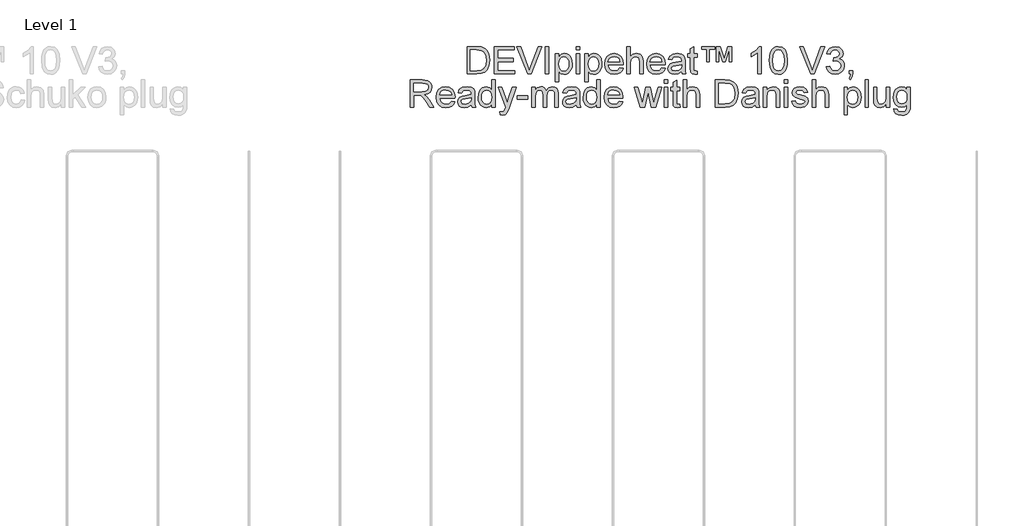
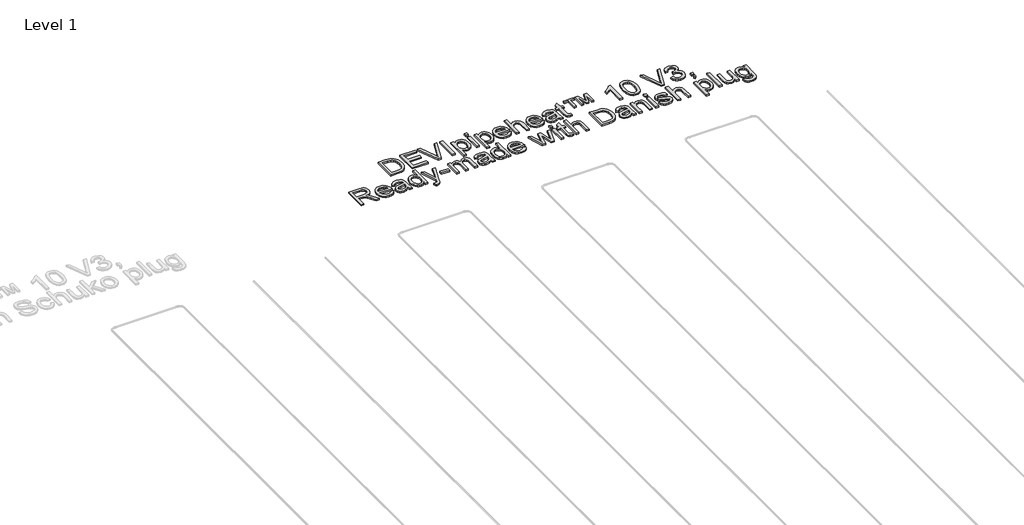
# One storey, part 26 of 26: 1 proxy.
"""IFC4 building model written with IfcOpenShell, lengths in millimetres."""

from ifc_helpers import new_model, si_unit, origin, origin_with_axes, place, context, project, spatial, polyline, outline, extrude, element, save

model = new_model("IFC4")

# Units and contexts
model_context = context("Model", 3, world=origin())
ifc_project = project(units=[si_unit("LENGTHUNIT", "METRE", prefix="MILLI")], contexts=[model_context])

# Site, building, storey
site = spatial("IfcSite", under=ifc_project)
building = spatial("IfcBuilding", under=site)
storey = spatial("IfcBuildingStorey", under=building, Name="Level 1", Elevation=0.0)

# Proxy
placement = place(None, origin())
element("IfcBuildingElementProxy", 1, Name="150mm", ObjectType="150mm", at=placement, inside=storey, context=model_context, shape_type="SweptSolid", body=[
    extrude(outline(polyline([(13110.8051646, 2484.9298), (13110.8051646, 2635.6142653), (13162.7868906, 2635.6142653), (13189.6790644, 2633.4437615), (13211.8255605, 2622.664819), (13222.245818, 2611.1869008), (13229.6678373, 2596.9130794), (13234.1100124, 2580.1192663), (13235.5907374, 2561.081373), (13231.5808237, 2530.6759261), (13221.2801278, 2508.7317651), (13207.5213412, 2495.064949), (13189.5135175, 2487.504974), (13165.2884881, 2484.9298), (13110.8051646, 2484.9298)]), holes=[polyline([(13129.6407228, 2503.7653582), (13162.9708316, 2503.7653582), (13187.214255, 2506.487685), (13201.1937709, 2514.1764187), (13212.653295, 2532.8832181), (13216.7551793, 2561.3756786), (13214.7456239, 2581.903494), (13208.7169577, 2597.0602322), (13199.8096149, 2607.4712926), (13189.1640296, 2613.7620748), (13162.4557968, 2616.7787071), (13129.6407228, 2616.7787071), (13129.6407228, 2503.7653582)])]), origin_with_axes(), (0.0, 0.0, 1.0), 10.0),
    extrude(outline(polyline([(13261.4896299, 2484.9298), (13261.4896299, 2635.6142653), (13369.7940893, 2635.6142653), (13369.7940893, 2616.7787071), (13280.325188, 2616.7787071), (13280.325188, 2572.0442565), (13365.0851997, 2572.0442565), (13365.0851997, 2553.2086983), (13280.325188, 2553.2086983), (13280.325188, 2503.7653582), (13372.148534, 2503.7653582), (13372.148534, 2484.9298), (13261.4896299, 2484.9298)])), origin_with_axes(), (0.0, 0.0, 1.0), 10.0),
    extrude(outline(polyline([(13444.9155927, 2484.9298), (13384.9508275, 2635.6142653), (13405.1107608, 2635.6142653), (13445.2466865, 2527.0522885), (13453.3768786, 2502.5881358), (13461.3967061, 2527.0522885), (13501.6429963, 2635.6142653), (13521.8029297, 2635.6142653), (13464.3765502, 2484.9298), (13444.9155927, 2484.9298)])), origin_with_axes(), (0.0, 0.0, 1.0), 10.0),
    extrude(outline(polyline([(13541.6685574, 2484.9298), (13541.6685574, 2635.6142653), (13560.5041156, 2635.6142653), (13560.5041156, 2484.9298), (13541.6685574, 2484.9298)])), origin_with_axes(), (0.0, 0.0, 1.0), 10.0),
    extrude(outline(polyline([(13595.8207871, 2442.5497942), (13595.8207871, 2595.5887042), (13614.6563452, 2595.5887042), (13614.6563452, 2577.121028), (13627.6793679, 2592.7376187), (13645.2641272, 2597.943149), (13658.0020413, 2596.1221331), (13669.1396687, 2590.6590855), (13678.2079599, 2581.8850999), (13684.7378653, 2570.1312701), (13689.9985779, 2541.1053807), (13688.5132543, 2524.9967478), (13684.0572836, 2510.5895692), (13676.7732201, 2498.6150103), (13666.8036181, 2489.8042365), (13655.1923426, 2484.3825756), (13642.9832589, 2482.5753553), (13626.594116, 2487.4130035), (13614.6563452, 2499.6450798), (13614.6563452, 2442.5497942), (13595.8207871, 2442.5497942)]), holes=[polyline([(13614.6563452, 2539.3763353), (13616.6934918, 2522.4905517), (13622.8049314, 2510.6815397), (13631.8226388, 2503.72857), (13642.5785887, 2501.4109134), (13653.5092825, 2503.8113434), (13662.7569161, 2511.0126335), (13669.0614938, 2523.2539069), (13671.1630197, 2540.7742869), (13669.1120776, 2557.5681), (13662.9592512, 2569.5426589), (13653.9553394, 2576.7163578), (13643.3511409, 2579.1075908), (13632.7055556, 2576.5646065), (13623.3567544, 2568.9356536), (13616.8314475, 2556.4598555), (13614.6563452, 2539.3763353)])]), origin_with_axes(), (0.0, 0.0, 1.0), 10.0),
    extrude(outline(polyline([(13711.1885808, 2616.7787071), (13711.1885808, 2635.6142653), (13730.0241389, 2635.6142653), (13730.0241389, 2616.7787071), (13711.1885808, 2616.7787071)])), origin_with_axes(), (0.0, 0.0, 1.0), 10.0),
    extrude(outline(polyline([(13711.1885808, 2484.9298), (13711.1885808, 2595.5887042), (13730.0241389, 2595.5887042), (13730.0241389, 2484.9298), (13711.1885808, 2484.9298)])), origin_with_axes(), (0.0, 0.0, 1.0), 10.0),
    extrude(outline(polyline([(13758.2774762, 2442.5497942), (13758.2774762, 2595.5887042), (13777.1130343, 2595.5887042), (13777.1130343, 2577.121028), (13790.1360569, 2592.7376187), (13807.7208163, 2597.943149), (13820.4587304, 2596.1221331), (13831.5963578, 2590.6590855), (13840.664649, 2581.8850999), (13847.1945544, 2570.1312701), (13852.4552669, 2541.1053807), (13850.9699434, 2524.9967478), (13846.5139727, 2510.5895692), (13839.2299092, 2498.6150103), (13829.2603071, 2489.8042365), (13817.6490317, 2484.3825756), (13805.4399479, 2482.5753553), (13789.0508051, 2487.4130035), (13777.1130343, 2499.6450798), (13777.1130343, 2442.5497942), (13758.2774762, 2442.5497942)]), holes=[polyline([(13777.1130343, 2539.3763353), (13779.1501809, 2522.4905517), (13785.2616205, 2510.6815397), (13794.2793279, 2503.72857), (13805.0352777, 2501.4109134), (13815.9659715, 2503.8113434), (13825.2136052, 2511.0126335), (13831.5181829, 2523.2539069), (13833.6197088, 2540.7742869), (13831.5687666, 2557.5681), (13825.4159403, 2569.5426589), (13816.4120284, 2576.7163578), (13805.8078299, 2579.1075908), (13795.1622447, 2576.5646065), (13785.8134435, 2568.9356536), (13779.2881366, 2556.4598555), (13777.1130343, 2539.3763353)])]), origin_with_axes(), (0.0, 0.0, 1.0), 10.0),
    extrude(outline(polyline([(13951.121218, 2517.8920268), (13969.5888942, 2515.537582), (13962.9348286, 2501.6224456), (13952.3168345, 2491.2205822), (13937.9740352, 2484.736662), (13920.145554, 2482.5753553), (13898.0450432, 2486.304759), (13881.0396979, 2497.4929702), (13870.1963761, 2515.4134219), (13866.5819355, 2539.3395471), (13870.2331643, 2564.0704143), (13881.1868507, 2582.5656816), (13897.9622697, 2594.0987821), (13919.0786962, 2597.943149), (13939.5375337, 2594.1079792), (13955.8852899, 2582.6024698), (13966.6044515, 2564.1439907), (13970.1775054, 2539.4499117), (13970.0671408, 2534.3731402), (13885.4174937, 2534.3731402), (13888.6778479, 2520.2740627), (13896.2516184, 2509.9089875), (13907.1823122, 2503.5354319), (13920.513436, 2501.4109134), (13938.9811122, 2505.3472508), (13951.121218, 2517.8920268)]), holes=[polyline([(13885.4174937, 2553.2086983), (13951.3419472, 2553.2086983), (13948.7943644, 2563.1599063), (13943.8003663, 2570.2784229), (13932.8190888, 2576.9002988), (13919.0051199, 2579.1075908), (13906.3085925, 2577.3463558), (13895.8101601, 2572.0626506), (13888.512301, 2563.8266924), (13885.4174937, 2553.2086983)])]), origin_with_axes(), (0.0, 0.0, 1.0), 10.0),
    extrude(outline(polyline([(13989.0130635, 2484.9298), (13989.0130635, 2635.6142653), (14007.8486217, 2635.6142653), (14007.8486217, 2580.2112368), (14022.5363103, 2593.5101709), (14040.6269075, 2597.943149), (14061.7801222, 2593.1055007), (14074.6192038, 2579.7329902), (14078.4819648, 2554.9745319), (14078.4819648, 2484.9298), (14059.6464066, 2484.9298), (14059.6464066, 2553.0247573), (14058.1472875, 2564.8153753), (14053.6499301, 2572.8903851), (14046.4026548, 2577.5532894), (14036.6537819, 2579.1075908), (14021.2211322, 2574.9137361), (14010.9204363, 2563.5461824), (14007.8486217, 2543.7173429), (14007.8486217, 2484.9298), (13989.0130635, 2484.9298)])), origin_with_axes(), (0.0, 0.0, 1.0), 10.0),
    extrude(outline(polyline([(14181.8568054, 2517.8920268), (14200.3244816, 2515.537582), (14193.670416, 2501.6224456), (14183.0524219, 2491.2205822), (14168.7096226, 2484.736662), (14150.8811414, 2482.5753553), (14128.7806306, 2486.304759), (14111.7752853, 2497.4929702), (14100.9319635, 2515.4134219), (14097.3175229, 2539.3395471), (14100.9687517, 2564.0704143), (14111.9224381, 2582.5656816), (14128.6978571, 2594.0987821), (14149.8142836, 2597.943149), (14170.2731211, 2594.1079792), (14186.6208772, 2582.6024698), (14197.3400389, 2564.1439907), (14200.9130928, 2539.4499117), (14200.8027282, 2534.3731402), (14116.1530811, 2534.3731402), (14119.4134352, 2520.2740627), (14126.9872058, 2509.9089875), (14137.9178996, 2503.5354319), (14151.2490234, 2501.4109134), (14169.7166996, 2505.3472508), (14181.8568054, 2517.8920268)]), holes=[polyline([(14116.1530811, 2553.2086983), (14182.0775346, 2553.2086983), (14179.5299518, 2563.1599063), (14174.5359537, 2570.2784229), (14163.5546761, 2576.9002988), (14149.7407072, 2579.1075908), (14137.0441799, 2577.3463558), (14126.5457474, 2572.0626506), (14119.2478884, 2563.8266924), (14116.1530811, 2553.2086983)])]), origin_with_axes(), (0.0, 0.0, 1.0), 10.0),
    extrude(outline(polyline([(14290.381994, 2499.0564687), (14272.1166529, 2486.2909634), (14251.9383255, 2482.5753553), (14236.1975746, 2484.8102384), (14224.5862991, 2491.5148878), (14217.4263958, 2501.696022), (14215.0397614, 2514.3603597), (14218.6450049, 2529.2595805), (14228.1179663, 2540.0753111), (14241.3065358, 2546.2557286), (14257.6037082, 2549.08842), (14290.2716294, 2555.5631431), (14290.381994, 2559.7569979), (14289.0852099, 2568.1631015), (14285.1948578, 2573.6629373), (14276.4944487, 2577.7464274), (14264.3727369, 2579.1075908), (14245.3164496, 2575.4839532), (14236.2297643, 2562.6264774), (14217.3942061, 2564.9809222), (14225.5427923, 2583.375022), (14241.9503293, 2594.1539644), (14266.8007581, 2597.943149), (14289.6278359, 2594.5954228), (14302.5220998, 2586.1893192), (14308.2978471, 2573.4054199), (14309.2175521, 2556.9243065), (14309.2175521, 2533.4902234), (14310.1740453, 2500.7671199), (14313.9264417, 2484.9298), (14295.0908835, 2484.9298), (14290.381994, 2499.0564687)]), holes=[polyline([(14290.381994, 2536.727585), (14259.9949412, 2530.9518376), (14243.7897393, 2527.8984171), (14236.4504935, 2522.9320101), (14233.8753195, 2515.6847348), (14239.4855199, 2505.4944036), (14255.9482392, 2501.4109134), (14275.0045266, 2505.9174679), (14287.2917852, 2516.825169), (14290.2716294, 2531.393296), (14290.381994, 2536.727585)])]), origin_with_axes(), (0.0, 0.0, 1.0), 10.0),
    extrude(outline(polyline([(14375.1420057, 2500.6383612), (14377.4964504, 2484.377977), (14363.40657, 2482.5753553), (14347.6244324, 2485.7023522), (14339.7517577, 2493.9061207), (14337.4708894, 2515.2800646), (14337.4708894, 2576.753146), (14323.3442207, 2576.753146), (14323.3442207, 2595.5887042), (14337.4708894, 2595.5887042), (14337.4708894, 2622.480878), (14356.3064475, 2633.5541261), (14356.3064475, 2595.5887042), (14375.1420057, 2595.5887042), (14375.1420057, 2576.753146), (14356.3064475, 2576.753146), (14356.3064475, 2515.8318876), (14357.2997289, 2506.119803), (14360.5186964, 2502.6801063), (14366.9382372, 2501.4109134), (14375.1420057, 2500.6383612)])), origin_with_axes(), (0.0, 0.0, 1.0), 10.0),
    extrude(outline(polyline([(14429.2942354, 2550.8542536), (14429.2942354, 2621.4875967), (14401.0408981, 2621.4875967), (14401.0408981, 2635.6142653), (14471.6742412, 2635.6142653), (14471.6742412, 2621.4875967), (14443.420904, 2621.4875967), (14443.420904, 2550.8542536), (14429.2942354, 2550.8542536)])), origin_with_axes(), (0.0, 0.0, 1.0), 10.0),
    extrude(outline(polyline([(14481.0920203, 2550.8542536), (14481.0920203, 2635.6142653), (14501.9877176, 2635.6142653), (14523.5456025, 2567.5560962), (14544.84597, 2635.6142653), (14565.852032, 2635.6142653), (14565.852032, 2550.8542536), (14551.7253634, 2550.8542536), (14551.7253634, 2620.4575271), (14530.5353604, 2550.8542536), (14516.4086918, 2550.8542536), (14495.2186889, 2621.4875967), (14495.2186889, 2550.8542536), (14481.0920203, 2550.8542536)])), origin_with_axes(), (0.0, 0.0, 1.0), 10.0),
    extrude(outline(polyline([(14728.308721, 2484.9298), (14709.4731629, 2484.9298), (14709.4731629, 2602.3577329), (14691.6308861, 2589.64741), (14671.8020466, 2580.1376604), (14671.8020466, 2597.943149), (14699.4115903, 2615.5646965), (14716.1686152, 2635.6142653), (14728.308721, 2635.6142653), (14728.308721, 2484.9298)])), origin_with_axes(), (0.0, 0.0, 1.0), 10.0),
    extrude(outline(polyline([(14773.0431717, 2559.0580221), (14774.4273277, 2583.1772854), (14778.5797957, 2602.4129152), (14785.459189, 2617.0592171), (14795.0241209, 2627.4104968), (14807.3435692, 2633.5633231), (14822.4865118, 2635.6142653), (14844.4858551, 2630.7582229), (14859.6793815, 2616.760313), (14868.5085494, 2594.4666641), (14871.929852, 2559.0580221), (14870.5594915, 2535.0767145), (14866.4484102, 2515.8870699), (14859.6104036, 2501.2269724), (14850.0592673, 2490.8343061), (14837.7122279, 2484.640093), (14822.4865118, 2482.5753553), (14802.9151897, 2486.1622047), (14788.0527571, 2496.9227531), (14776.795568, 2522.4077783), (14773.0431717, 2559.0580221)]), holes=[polyline([(14791.8787298, 2559.0948103), (14794.0860218, 2529.4665141), (14800.7078977, 2512.3186146), (14810.5671352, 2504.1378387), (14822.4865118, 2501.4109134), (14834.4058884, 2504.1470358), (14844.2651259, 2512.3554028), (14850.8870018, 2529.5124993), (14853.0942938, 2559.0948103), (14850.9605782, 2588.0563203), (14844.5594315, 2605.3375771), (14834.7185881, 2613.9184246), (14822.2657826, 2616.7787071), (14810.4751647, 2614.2587154), (14801.0022033, 2606.6987404), (14794.1595982, 2588.3414289), (14791.8787298, 2559.0948103)])]), origin_with_axes(), (0.0, 0.0, 1.0), 10.0),
    extrude(outline(polyline([(14998.8491403, 2484.9298), (14938.8843751, 2635.6142653), (14959.0443084, 2635.6142653), (14999.1802341, 2527.0522885), (15007.3104262, 2502.5881358), (15015.3302537, 2527.0522885), (15055.5765439, 2635.6142653), (15075.7364773, 2635.6142653), (15018.3100978, 2484.9298), (14998.8491403, 2484.9298)])), origin_with_axes(), (0.0, 0.0, 1.0), 10.0),
    extrude(outline(polyline([(15086.1843259, 2524.9553611), (15105.0198841, 2527.3098059), (15109.2367315, 2515.4732027), (15115.4125505, 2507.4809663), (15123.8508437, 2502.9284267), (15134.8551139, 2501.4109134), (15147.7677719, 2503.4986437), (15157.737374, 2509.7618347), (15164.1109296, 2519.1060374), (15166.2354481, 2530.4368028), (15164.1293237, 2541.1927527), (15157.8109504, 2549.9161545), (15148.2460185, 2555.6965003), (15136.4002183, 2557.6232823), (15123.1932547, 2555.5631431), (15125.290182, 2574.3987013), (15128.3068144, 2574.1779721), (15149.6807583, 2579.5858374), (15156.7992749, 2586.4468366), (15159.1721138, 2596.2141036), (15157.4522655, 2604.3488942), (15152.2927205, 2610.9477775), (15144.4200458, 2615.3209747), (15134.5608083, 2616.7787071), (15124.6831767, 2615.3071791), (15116.6081669, 2610.8925952), (15110.712858, 2603.5349553), (15107.3743289, 2593.2342594), (15088.5387707, 2595.5887042), (15094.0845918, 2612.5020789), (15103.9530263, 2625.1296284), (15117.4542955, 2632.9931061), (15133.8986207, 2635.6142653), (15156.6153339, 2630.4455232), (15172.5078361, 2616.3188546), (15178.0076719, 2597.3177496), (15172.7837476, 2579.9537194), (15157.3327038, 2567.4825198), (15169.1233218, 2562.7184479), (15177.8605191, 2554.6066499), (15183.2683845, 2543.5885842), (15185.0710063, 2530.105709), (15181.4657627, 2511.7483975), (15170.650032, 2496.4077183), (15154.3252685, 2486.033446), (15134.1929263, 2482.5753553), (15115.9827676, 2485.5276083), (15101.1571232, 2494.3843673), (15090.8472302, 2507.9316218), (15086.1843259, 2524.9553611)])), origin_with_axes(), (0.0, 0.0, 1.0), 10.0),
    extrude(outline(polyline([(15210.9698987, 2484.9298), (15210.9698987, 2503.7653582), (15229.8054569, 2503.7653582), (15229.8054569, 2484.9298), (15226.4209425, 2465.6711776), (15215.6787883, 2454.322018), (15210.9698987, 2461.3853524), (15217.8860802, 2469.5155444), (15220.3508896, 2484.9298), (15210.9698987, 2484.9298)])), origin_with_axes(), (0.0, 0.0, 1.0), 10.0),
    extrude(outline(polyline([(12800.0184551, 2301.9675733), (12800.0184551, 2452.6520385), (12864.9496273, 2452.6520385), (12895.0975568, 2448.5869425), (12904.3773801, 2442.9583479), (12911.5786702, 2434.2027564), (12916.2001877, 2423.3456391), (12917.7406936, 2411.4124668), (12915.1885122, 2396.5684283), (12907.5319682, 2384.2627756), (12894.5411353, 2375.2404697), (12875.9860871, 2370.2464716), (12886.6914532, 2362.1898559), (12901.958556, 2342.8024747), (12927.0848963, 2301.9675733), (12905.1959175, 2301.9675733), (12885.5878072, 2333.2007547), (12871.4243504, 2353.8757228), (12861.4731424, 2363.6429898), (12852.5152158, 2367.2298392), (12841.5891206, 2367.8920268), (12818.8540133, 2367.8920268), (12818.8540133, 2301.9675733), (12800.0184551, 2301.9675733)]), holes=[polyline([(12818.8540133, 2386.727585), (12861.0132899, 2386.727585), (12882.5159925, 2389.3947294), (12894.7296748, 2397.9295917), (12898.9051354, 2410.713491), (12896.9139741, 2419.9013439), (12890.9404902, 2427.304969), (12880.662787, 2432.1886025), (12865.7589677, 2433.8164803), (12818.8540133, 2433.8164803), (12818.8540133, 2386.727585)])]), origin_with_axes(), (0.0, 0.0, 1.0), 10.0),
    extrude(outline(polyline([(13025.8244238, 2334.9298), (13044.2920999, 2332.5753553), (13037.6380343, 2318.6602188), (13027.0200402, 2308.2583554), (13012.677241, 2301.7744352), (12994.8487598, 2299.6131285), (12972.7482489, 2303.3425322), (12955.7429037, 2314.5307434), (12944.8995819, 2332.4511951), (12941.2851413, 2356.3773204), (12944.9363701, 2381.1081875), (12955.8900565, 2399.6034548), (12972.6654755, 2411.1365553), (12993.781902, 2414.9809222), (13014.2407394, 2411.1457524), (13030.5884956, 2399.640243), (13041.3076572, 2381.1817639), (13044.8807111, 2356.487685), (13044.7703465, 2351.4109134), (12960.1206994, 2351.4109134), (12963.3810536, 2337.311836), (12970.9548242, 2326.9467607), (12981.885518, 2320.5732052), (12995.2166418, 2318.4486867), (13013.6843179, 2322.385024), (13025.8244238, 2334.9298)]), holes=[polyline([(12960.1206994, 2370.2464716), (13026.045153, 2370.2464716), (13023.4975701, 2380.1976795), (13018.5035721, 2387.3161962), (13007.5222945, 2393.9380721), (12993.7083256, 2396.145364), (12981.0117982, 2394.384129), (12970.5133658, 2389.1004238), (12963.2155067, 2380.8644657), (12960.1206994, 2370.2464716)])]), origin_with_axes(), (0.0, 0.0, 1.0), 10.0),
    extrude(outline(polyline([(13134.3496123, 2316.0942419), (13116.0842713, 2303.3287367), (13095.9059438, 2299.6131285), (13080.165193, 2301.8480116), (13068.5539175, 2308.552661), (13061.3940142, 2318.7337952), (13059.0073797, 2331.3981329), (13062.6126233, 2346.2973537), (13072.0855847, 2357.1130844), (13085.2741542, 2363.2935019), (13101.5713266, 2366.1261932), (13134.2392477, 2372.6009163), (13134.3496123, 2376.7947711), (13133.0528283, 2385.2008747), (13129.1624762, 2390.7007105), (13120.462067, 2394.7842007), (13108.3403553, 2396.145364), (13089.2840679, 2392.5217264), (13080.1973826, 2379.6642507), (13061.3618245, 2382.0186954), (13069.5104107, 2400.4127952), (13085.9179477, 2411.1917376), (13110.7683764, 2414.9809222), (13133.5954542, 2411.633196), (13146.4897182, 2403.2270924), (13152.2654655, 2390.4431931), (13153.1851705, 2373.9620797), (13153.1851705, 2350.5279966), (13154.1416637, 2317.8048932), (13157.89406, 2301.9675733), (13139.0585019, 2301.9675733), (13134.3496123, 2316.0942419)]), holes=[polyline([(13134.3496123, 2353.7653582), (13103.9625595, 2347.9896109), (13087.7573576, 2344.9361903), (13080.4181118, 2339.9697834), (13077.8429379, 2332.7225081), (13083.4531383, 2322.5321768), (13099.9158576, 2318.4486867), (13118.9721449, 2322.9552411), (13131.2594036, 2333.8629423), (13134.2392477, 2348.4310693), (13134.3496123, 2353.7653582)])]), origin_with_axes(), (0.0, 0.0, 1.0), 10.0),
    extrude(outline(polyline([(13247.3629613, 2301.9675733), (13247.3629613, 2319.7362736), (13234.9009587, 2304.6439148), (13217.6748842, 2299.6131285), (13205.4979902, 2301.4341444), (13194.3511658, 2306.897192), (13184.9149926, 2315.6205938), (13177.8700524, 2327.2226722), (13173.4830596, 2341.2343777), (13172.0207286, 2357.1866608), (13177.4101999, 2387.1690434), (13184.1424404, 2399.0608289), (13193.5602195, 2407.8072233), (13204.9507657, 2413.1874975), (13217.6013078, 2414.9809222), (13234.965338, 2409.8489684), (13247.3629613, 2396.513246), (13247.3629613, 2452.6520385), (13266.1985194, 2452.6520385), (13266.1985194, 2301.9675733), (13247.3629613, 2301.9675733)]), holes=[polyline([(13190.8562868, 2357.2602371), (13192.9808053, 2340.2227022), (13199.3543609, 2328.105589), (13208.6157901, 2320.8629123), (13219.4039296, 2318.4486867), (13230.1874706, 2320.7525477), (13239.2143751, 2327.6641306), (13245.3258147, 2339.3121943), (13247.3629613, 2355.8254974), (13245.2890265, 2373.8793063), (13239.0672223, 2386.3964912), (13229.8103916, 2393.7081458), (13218.6313774, 2396.145364), (13207.7328733, 2393.8047148), (13198.8025379, 2386.7827673), (13192.8428496, 2374.7208363), (13190.8562868, 2357.2602371)])]), origin_with_axes(), (0.0, 0.0, 1.0), 10.0),
    extrude(outline(polyline([(13294.4518566, 2259.5875674), (13292.0974119, 2277.7241498), (13301.6623437, 2276.0686808), (13310.6018762, 2278.1472141), (13316.083318, 2283.9413555), (13321.2336659, 2297.8105067), (13322.7051939, 2302.3722435), (13282.6796328, 2412.6264774), (13302.5452605, 2412.6264774), (13323.7720517, 2351.1901842), (13331.1664798, 2326.615667), (13338.5609079, 2348.3207047), (13360.3763102, 2412.6264774), (13380.0947851, 2412.6264774), (13341.5775402, 2299.3188229), (13331.57115, 2274.7443056), (13320.6450547, 2261.4637656), (13305.9665631, 2257.2331227), (13294.4518566, 2259.5875674)])), origin_with_axes(), (0.0, 0.0, 1.0), 10.0),
    extrude(outline(polyline([(13386.2752026, 2346.7020239), (13386.2752026, 2365.537582), (13445.1363219, 2365.537582), (13445.1363219, 2346.7020239), (13386.2752026, 2346.7020239)])), origin_with_axes(), (0.0, 0.0, 1.0), 10.0),
    extrude(outline(polyline([(13466.3263248, 2301.9675733), (13466.3263248, 2412.6264774), (13485.1618829, 2412.6264774), (13485.1618829, 2394.4163187), (13498.1113292, 2409.3339336), (13516.5422171, 2414.9809222), (13527.0176569, 2413.5415839), (13535.4145635, 2409.223569), (13545.7888357, 2393.0919435), (13560.4857215, 2409.5086775), (13579.0453681, 2414.9809222), (13593.2042264, 2412.7046523), (13603.6750677, 2405.8758428), (13610.1451923, 2394.3105526), (13612.3019005, 2377.8248407), (13612.3019005, 2301.9675733), (13593.4663423, 2301.9675733), (13593.4663423, 2369.7314368), (13591.7189028, 2385.4583921), (13585.3913325, 2393.2023081), (13574.6307842, 2396.145364), (13564.4266573, 2394.2599688), (13556.1079257, 2388.6037831), (13550.5759002, 2378.7905309), (13548.7318917, 2364.4339361), (13548.7318917, 2301.9675733), (13529.8963336, 2301.9675733), (13529.8963336, 2371.8283642), (13525.5369319, 2390.0753111), (13519.7841772, 2394.6278508), (13511.2447164, 2396.145364), (13497.3019888, 2392.0986621), (13488.0313625, 2380.2528618), (13485.1618829, 2357.7752719), (13485.1618829, 2301.9675733), (13466.3263248, 2301.9675733)])), origin_with_axes(), (0.0, 0.0, 1.0), 10.0),
    extrude(outline(polyline([(13711.1885808, 2316.0942419), (13692.9232397, 2303.3287367), (13672.7449123, 2299.6131285), (13657.0041614, 2301.8480116), (13645.3928859, 2308.552661), (13638.2329826, 2318.7337952), (13635.8463482, 2331.3981329), (13639.4515917, 2346.2973537), (13648.9245531, 2357.1130844), (13662.1131226, 2363.2935019), (13678.410295, 2366.1261932), (13711.0782162, 2372.6009163), (13711.1885808, 2376.7947711), (13709.8917967, 2385.2008747), (13706.0014446, 2390.7007105), (13697.3010355, 2394.7842007), (13685.1793237, 2396.145364), (13666.1230364, 2392.5217264), (13657.0363511, 2379.6642507), (13638.2007929, 2382.0186954), (13646.3493791, 2400.4127952), (13662.7569161, 2411.1917376), (13687.6073449, 2414.9809222), (13710.4344227, 2411.633196), (13723.3286866, 2403.2270924), (13729.1044339, 2390.4431931), (13730.0241389, 2373.9620797), (13730.0241389, 2350.5279966), (13730.9806321, 2317.8048932), (13734.7330285, 2301.9675733), (13715.8974703, 2301.9675733), (13711.1885808, 2316.0942419)]), holes=[polyline([(13711.1885808, 2353.7653582), (13680.801528, 2347.9896109), (13664.5963261, 2344.9361903), (13657.2570803, 2339.9697834), (13654.6819063, 2332.7225081), (13660.2921067, 2322.5321768), (13676.754826, 2318.4486867), (13695.8111134, 2322.9552411), (13708.098372, 2333.8629423), (13711.0782162, 2348.4310693), (13711.1885808, 2353.7653582)])]), origin_with_axes(), (0.0, 0.0, 1.0), 10.0),
    extrude(outline(polyline([(13824.2019297, 2301.9675733), (13824.2019297, 2319.7362736), (13811.7399271, 2304.6439148), (13794.5138527, 2299.6131285), (13782.3369586, 2301.4341444), (13771.1901342, 2306.897192), (13761.753961, 2315.6205938), (13754.7090208, 2327.2226722), (13750.322028, 2341.2343777), (13748.8596971, 2357.1866608), (13754.2491683, 2387.1690434), (13760.9814088, 2399.0608289), (13770.3991879, 2407.8072233), (13781.7897342, 2413.1874975), (13794.4402763, 2414.9809222), (13811.8043065, 2409.8489684), (13824.2019297, 2396.513246), (13824.2019297, 2452.6520385), (13843.0374878, 2452.6520385), (13843.0374878, 2301.9675733), (13824.2019297, 2301.9675733)]), holes=[polyline([(13767.6952552, 2357.2602371), (13769.8197738, 2340.2227022), (13776.1933293, 2328.105589), (13785.4547586, 2320.8629123), (13796.2428981, 2318.4486867), (13807.026439, 2320.7525477), (13816.0533435, 2327.6641306), (13822.1647831, 2339.3121943), (13824.2019297, 2355.8254974), (13822.1279949, 2373.8793063), (13815.9061907, 2386.3964912), (13806.64936, 2393.7081458), (13795.4703459, 2396.145364), (13784.5718418, 2393.8047148), (13775.6415063, 2386.7827673), (13769.681818, 2374.7208363), (13767.6952552, 2357.2602371)])]), origin_with_axes(), (0.0, 0.0, 1.0), 10.0),
    extrude(outline(polyline([(13948.7667733, 2334.9298), (13967.2344494, 2332.5753553), (13960.5803838, 2318.6602188), (13949.9623897, 2308.2583554), (13935.6195905, 2301.7744352), (13917.7911093, 2299.6131285), (13895.6905984, 2303.3425322), (13878.6852532, 2314.5307434), (13867.8419314, 2332.4511951), (13864.2274908, 2356.3773204), (13867.8787196, 2381.1081875), (13878.832406, 2399.6034548), (13895.607825, 2411.1365553), (13916.7242515, 2414.9809222), (13937.1830889, 2411.1457524), (13953.5308451, 2399.640243), (13964.2500067, 2381.1817639), (13967.8230606, 2356.487685), (13967.712696, 2351.4109134), (13883.0630489, 2351.4109134), (13886.3234031, 2337.311836), (13893.8971737, 2326.9467607), (13904.8278675, 2320.5732052), (13918.1589913, 2318.4486867), (13936.6266674, 2322.385024), (13948.7667733, 2334.9298)]), holes=[polyline([(13883.0630489, 2370.2464716), (13948.9875025, 2370.2464716), (13946.4399196, 2380.1976795), (13941.4459216, 2387.3161962), (13930.464644, 2393.9380721), (13916.6506751, 2396.145364), (13903.9541477, 2394.384129), (13893.4557153, 2389.1004238), (13886.1578562, 2380.8644657), (13883.0630489, 2370.2464716)])]), origin_with_axes(), (0.0, 0.0, 1.0), 10.0),
    extrude(outline(polyline([(14063.8770496, 2301.9675733), (14030.215847, 2412.6264774), (14049.7871691, 2412.6264774), (14068.8802447, 2348.0631873), (14074.5824156, 2324.9969862), (14079.2545169, 2347.2170587), (14094.4480434, 2412.6264774), (14116.8888451, 2412.6264774), (14132.0087951, 2347.4009997), (14136.1658616, 2327.2778545), (14142.1255499, 2348.5046457), (14161.2554137, 2412.6264774), (14180.9003122, 2412.6264774), (14146.9815923, 2301.9675733), (14124.2096968, 2301.9675733), (14109.7519343, 2366.8619572), (14105.5580796, 2387.095467), (14086.9064624, 2301.9675733), (14063.8770496, 2301.9675733)])), origin_with_axes(), (0.0, 0.0, 1.0), 10.0),
    extrude(outline(polyline([(14193.8497584, 2433.8164803), (14193.8497584, 2452.6520385), (14212.6853166, 2452.6520385), (14212.6853166, 2433.8164803), (14193.8497584, 2433.8164803)])), origin_with_axes(), (0.0, 0.0, 1.0), 10.0),
    extrude(outline(polyline([(14193.8497584, 2301.9675733), (14193.8497584, 2412.6264774), (14212.6853166, 2412.6264774), (14212.6853166, 2301.9675733), (14193.8497584, 2301.9675733)])), origin_with_axes(), (0.0, 0.0, 1.0), 10.0),
    extrude(outline(polyline([(14280.9642149, 2317.6761345), (14283.3186597, 2301.4157503), (14269.2287793, 2299.6131285), (14253.4466417, 2302.7401255), (14245.573967, 2310.943894), (14243.2930986, 2332.3178379), (14243.2930986, 2393.7909193), (14229.16643, 2393.7909193), (14229.16643, 2412.6264774), (14243.2930986, 2412.6264774), (14243.2930986, 2439.5186513), (14262.1286568, 2450.5918993), (14262.1286568, 2412.6264774), (14280.9642149, 2412.6264774), (14280.9642149, 2393.7909193), (14262.1286568, 2393.7909193), (14262.1286568, 2332.8696609), (14263.1219381, 2323.1575762), (14266.3409056, 2319.7178795), (14272.7604464, 2318.4486867), (14280.9642149, 2317.6761345)])), origin_with_axes(), (0.0, 0.0, 1.0), 10.0),
    extrude(outline(polyline([(14299.7997731, 2301.9675733), (14299.7997731, 2452.6520385), (14318.6353312, 2452.6520385), (14318.6353312, 2397.24901), (14333.3230199, 2410.5479442), (14351.413617, 2414.9809222), (14372.5668317, 2410.143274), (14385.4059133, 2396.7707634), (14389.2686743, 2372.0123052), (14389.2686743, 2301.9675733), (14370.4331161, 2301.9675733), (14370.4331161, 2370.0625306), (14368.933997, 2381.8531485), (14364.4366396, 2389.9281583), (14357.1893643, 2394.5910626), (14347.4404914, 2396.145364), (14332.0078417, 2391.9515093), (14321.7071459, 2380.5839556), (14318.6353312, 2360.7551161), (14318.6353312, 2301.9675733), (14299.7997731, 2301.9675733)])), origin_with_axes(), (0.0, 0.0, 1.0), 10.0),
    extrude(outline(polyline([(14476.3831307, 2301.9675733), (14476.3831307, 2452.6520385), (14528.3648567, 2452.6520385), (14555.2570305, 2450.4815347), (14577.4035266, 2439.7025923), (14587.8237841, 2428.224674), (14595.2458034, 2413.9508526), (14599.6879785, 2397.1570395), (14601.1687035, 2378.1191463), (14597.1587898, 2347.7136994), (14586.8580939, 2325.7695384), (14573.0993073, 2312.1027222), (14555.0914836, 2304.5427472), (14530.8664542, 2301.9675733), (14476.3831307, 2301.9675733)]), holes=[polyline([(14495.2186889, 2320.8031314), (14528.5487977, 2320.8031314), (14552.7922211, 2323.5254582), (14566.771737, 2331.2141919), (14578.2312611, 2349.9209913), (14582.3331454, 2378.4134519), (14580.32359, 2398.9412672), (14574.2949238, 2414.0980054), (14565.387581, 2424.5090659), (14554.7419957, 2430.799848), (14528.0337629, 2433.8164803), (14495.2186889, 2433.8164803), (14495.2186889, 2320.8031314)])]), origin_with_axes(), (0.0, 0.0, 1.0), 10.0),
    extrude(outline(polyline([(14695.3464943, 2316.0942419), (14677.0811532, 2303.3287367), (14656.9028258, 2299.6131285), (14641.1620749, 2301.8480116), (14629.5507994, 2308.552661), (14622.3908961, 2318.7337952), (14620.0042617, 2331.3981329), (14623.6095052, 2346.2973537), (14633.0824666, 2357.1130844), (14646.2710361, 2363.2935019), (14662.5682085, 2366.1261932), (14695.2361297, 2372.6009163), (14695.3464943, 2376.7947711), (14694.0497102, 2385.2008747), (14690.1593581, 2390.7007105), (14681.458949, 2394.7842007), (14669.3372372, 2396.145364), (14650.2809499, 2392.5217264), (14641.1942646, 2379.6642507), (14622.3587064, 2382.0186954), (14630.5072926, 2400.4127952), (14646.9148296, 2411.1917376), (14671.7652584, 2414.9809222), (14694.5923362, 2411.633196), (14707.4866001, 2403.2270924), (14713.2623474, 2390.4431931), (14714.1820524, 2373.9620797), (14714.1820524, 2350.5279966), (14715.1385456, 2317.8048932), (14718.890942, 2301.9675733), (14700.0553838, 2301.9675733), (14695.3464943, 2316.0942419)]), holes=[polyline([(14695.3464943, 2353.7653582), (14664.9594415, 2347.9896109), (14648.7542396, 2344.9361903), (14641.4149938, 2339.9697834), (14638.8398198, 2332.7225081), (14644.4500202, 2322.5321768), (14660.9127395, 2318.4486867), (14679.9690269, 2322.9552411), (14692.2562855, 2333.8629423), (14695.2361297, 2348.4310693), (14695.3464943, 2353.7653582)])]), origin_with_axes(), (0.0, 0.0, 1.0), 10.0),
    extrude(outline(polyline([(14740.0809449, 2301.9675733), (14740.0809449, 2412.6264774), (14758.916503, 2412.6264774), (14758.916503, 2397.1754336), (14773.3190832, 2410.5295501), (14792.9823758, 2414.9809222), (14810.7694703, 2411.3940727), (14822.9095761, 2401.9762937), (14828.5565647, 2388.1255365), (14829.5498461, 2369.9153778), (14829.5498461, 2301.9675733), (14810.714288, 2301.9675733), (14810.714288, 2367.376992), (14808.5437842, 2384.0420464), (14800.8734446, 2392.8528202), (14787.9423925, 2396.145364), (14776.9105311, 2394.296757), (14767.5065476, 2388.7509359), (14761.0640142, 2378.0363728), (14758.916503, 2360.6815397), (14758.916503, 2301.9675733), (14740.0809449, 2301.9675733)])), origin_with_axes(), (0.0, 0.0, 1.0), 10.0),
    extrude(outline(polyline([(14855.4487386, 2433.8164803), (14855.4487386, 2452.6520385), (14874.2842967, 2452.6520385), (14874.2842967, 2433.8164803), (14855.4487386, 2433.8164803)])), origin_with_axes(), (0.0, 0.0, 1.0), 10.0),
    extrude(outline(polyline([(14855.4487386, 2301.9675733), (14855.4487386, 2412.6264774), (14874.2842967, 2412.6264774), (14874.2842967, 2301.9675733), (14855.4487386, 2301.9675733)])), origin_with_axes(), (0.0, 0.0, 1.0), 10.0),
    extrude(outline(polyline([(14895.4742996, 2334.9298), (14914.3098578, 2337.2842448), (14917.2805049, 2329.2276291), (14923.0286611, 2323.304729), (14943.0046534, 2318.4486867), (14962.2080936, 2322.9000588), (14968.4620875, 2333.3479075), (14966.889392, 2338.1487675), (14962.1713054, 2341.8091934), (14942.7839242, 2347.1802705), (14914.4202224, 2356.3957145), (14902.0409933, 2367.1562628), (14897.8287444, 2382.3497892), (14901.2132588, 2396.3844873), (14910.4470969, 2407.1082475), (14922.4216558, 2412.6816597), (14938.6268577, 2414.9809222), (14961.545906, 2411.2837081), (14976.114033, 2401.2773179), (14982.5887561, 2384.3731402), (14963.753198, 2382.0186954), (14956.6714695, 2392.4113618), (14940.0983857, 2396.145364), (14922.0721679, 2392.5769087), (14916.6643026, 2384.2627756), (14918.9083827, 2378.7813339), (14925.9349288, 2374.6242673), (14942.1585248, 2370.6143536), (14969.8048568, 2361.7483975), (14982.6439384, 2351.705219), (14987.2976456, 2335.3344702), (14981.834598, 2317.3082525), (14966.0708545, 2304.2300475), (14942.747136, 2299.6131285), (14923.755228, 2301.8388146), (14909.8952739, 2308.5158728), (14900.6430417, 2319.5707267), (14895.4742996, 2334.9298)])), origin_with_axes(), (0.0, 0.0, 1.0), 10.0),
    extrude(outline(polyline([(15008.4876486, 2301.9675733), (15008.4876486, 2452.6520385), (15027.3232067, 2452.6520385), (15027.3232067, 2397.24901), (15042.0108954, 2410.5479442), (15060.1014925, 2414.9809222), (15081.2547072, 2410.143274), (15094.0937888, 2396.7707634), (15097.9565498, 2372.0123052), (15097.9565498, 2301.9675733), (15079.1209916, 2301.9675733), (15079.1209916, 2370.0625306), (15077.6218725, 2381.8531485), (15073.1245151, 2389.9281583), (15065.8772398, 2394.5910626), (15056.1283669, 2396.145364), (15040.6957172, 2391.9515093), (15030.3950214, 2380.5839556), (15027.3232067, 2360.7551161), (15027.3232067, 2301.9675733), (15008.4876486, 2301.9675733)])), origin_with_axes(), (0.0, 0.0, 1.0), 10.0),
    extrude(outline(polyline([(15182.7165615, 2259.5875674), (15182.7165615, 2412.6264774), (15201.5521196, 2412.6264774), (15201.5521196, 2394.1588013), (15214.5751423, 2409.775392), (15232.1599016, 2414.9809222), (15244.8978157, 2413.1599063), (15256.0354431, 2407.6968587), (15265.1037343, 2398.9228731), (15271.6336397, 2387.1690434), (15276.8943522, 2358.1431539), (15275.4090287, 2342.0345211), (15270.953058, 2327.6273424), (15263.6689945, 2315.6527835), (15253.6993925, 2306.8420097), (15242.088117, 2301.4203488), (15229.8790333, 2299.6131285), (15213.4898904, 2304.4507767), (15201.5521196, 2316.6828531), (15201.5521196, 2259.5875674), (15182.7165615, 2259.5875674)]), holes=[polyline([(15201.5521196, 2356.4141086), (15203.5892662, 2339.528325), (15209.7007058, 2327.7193129), (15218.7184132, 2320.7663432), (15229.4743631, 2318.4486867), (15240.4050569, 2320.8491167), (15249.6526905, 2328.0504067), (15255.9572682, 2340.2916801), (15258.0587941, 2357.8120601), (15256.007852, 2374.6058732), (15249.8550256, 2386.5804322), (15240.8511138, 2393.7541311), (15230.2469153, 2396.145364), (15219.60133, 2393.6023797), (15210.2525288, 2385.9734269), (15203.7272219, 2373.4976287), (15201.5521196, 2356.4141086)])]), origin_with_axes(), (0.0, 0.0, 1.0), 10.0),
    extrude(outline(polyline([(15298.0843552, 2301.9675733), (15298.0843552, 2452.6520385), (15316.9199133, 2452.6520385), (15316.9199133, 2301.9675733), (15298.0843552, 2301.9675733)])), origin_with_axes(), (0.0, 0.0, 1.0), 10.0),
    extrude(outline(polyline([(15415.8065936, 2301.9675733), (15415.8065936, 2320.9870724), (15401.0545256, 2304.9566145), (15381.8142973, 2299.6131285), (15364.1007792, 2303.3655249), (15351.887097, 2312.7833039), (15346.2768965, 2326.6524552), (15345.1732506, 2344.1636381), (15345.1732506, 2412.6264774), (15364.0088087, 2412.6264774), (15364.0088087, 2353.0295942), (15365.1492429, 2333.8261541), (15372.5988533, 2322.5505709), (15386.6335514, 2318.4486867), (15402.3605067, 2322.6425414), (15412.7531731, 2334.0652774), (15415.8065936, 2355.0529452), (15415.8065936, 2412.6264774), (15434.6421518, 2412.6264774), (15434.6421518, 2301.9675733), (15415.8065936, 2301.9675733)])), origin_with_axes(), (0.0, 0.0, 1.0), 10.0),
    extrude(outline(polyline([(15455.8321547, 2292.5497942), (15474.6677129, 2290.1953494), (15480.774554, 2280.2625356), (15499.0582891, 2276.0686808), (15518.3353057, 2280.8143586), (15527.5323556, 2294.1316868), (15528.8199425, 2316.0942419), (15515.5577966, 2305.4992404), (15499.3893829, 2301.9675733), (15479.9698121, 2306.0786546), (15465.4890571, 2318.4118985), (15456.4805467, 2336.4932985), (15453.4777099, 2357.8488483), (15458.8671812, 2387.0402847), (15465.4614659, 2398.8906834), (15474.4653778, 2407.6968587), (15485.5708155, 2413.1599063), (15498.4696779, 2414.9809222), (15515.2726881, 2410.8606438), (15528.8199425, 2398.4998088), (15528.8199425, 2412.6264774), (15547.6555007, 2412.6264774), (15547.6555007, 2317.0875233), (15546.3679137, 2295.0283991), (15542.5051528, 2280.5016589), (15535.8510872, 2270.8677491), (15526.1895863, 2263.4871166), (15513.7321822, 2258.7966211), (15498.6904071, 2257.2331227), (15481.1654286, 2259.4358161), (15467.3652553, 2266.0438964), (15458.5130947, 2277.0757578), (15455.8321547, 2292.5497942)]), holes=[polyline([(15472.3132681, 2359.1364353), (15474.3228235, 2341.8597771), (15480.3514897, 2329.9817872), (15489.4151823, 2323.0977954), (15500.5298171, 2320.8031314), (15511.5616784, 2323.0839998), (15520.6713564, 2329.9266049), (15526.782796, 2341.6528435), (15528.8199425, 2358.5846123), (15526.7230152, 2374.9139744), (15520.4322331, 2386.6724027), (15511.1891979, 2393.7771237), (15500.2355115, 2396.145364), (15489.4795617, 2393.8139119), (15480.4618543, 2386.8195555), (15474.3504146, 2375.2358711), (15472.3132681, 2359.1364353)])]), origin_with_axes(), (0.0, 0.0, 1.0), 10.0),
])

save(model, "model.ifc")
